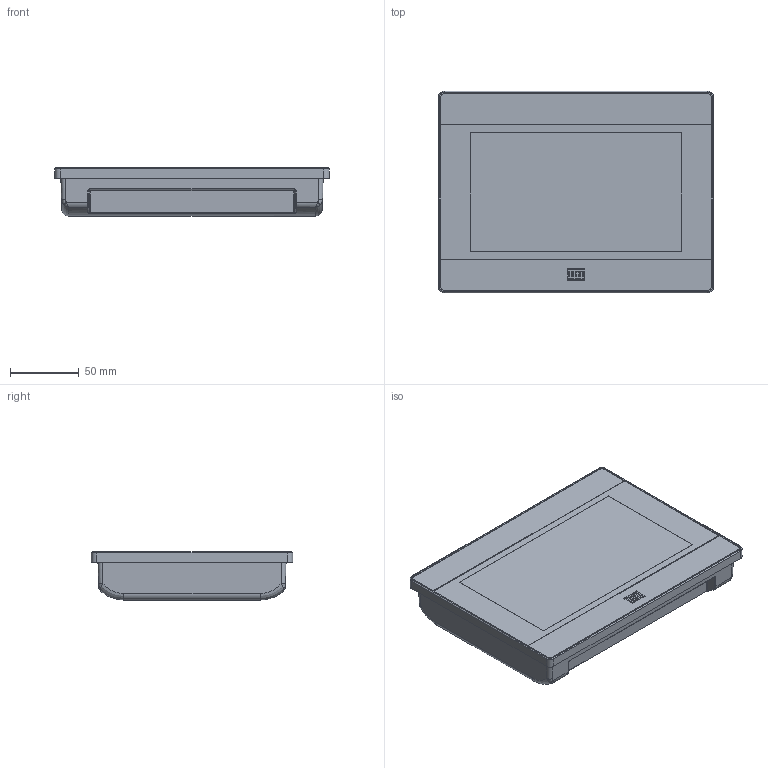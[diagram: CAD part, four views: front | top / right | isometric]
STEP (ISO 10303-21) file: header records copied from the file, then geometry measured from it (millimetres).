
FILE_DESCRIPTION (( 'STEP AP203' ), '1' );
FILE_NAME ('STP - CLP cMT2078X.STEP', '2022-07-14T20:27:19', ( '' ), ( '' ), 'SwSTEP 2.0', 'SolidWorks 2018', '' );
FILE_SCHEMA (( 'CONFIG_CONTROL_DESIGN' ));
Length unit declared in the file: millimetre
Products named in the file (1): STP - CLP cMT2078X
Bounding box: 200 x 146.5 x 35 mm (x, y, z)
Volume: 885318.3 mm3; surface area: 79037.2 mm2
Topology: 1 solids, 1 shells, 136 faces, 340 edges, 210 vertices
Faces by surface type: plane 76, cylinder 32, bspline 22, torus 4, sphere 2
Entity records: 4543 total; most frequent: CARTESIAN_POINT 1417, ORIENTED_EDGE 672, DIRECTION 578, EDGE_CURVE 336, LINE 228, VECTOR 228, VERTEX_POINT 210, AXIS2_PLACEMENT_3D 175
